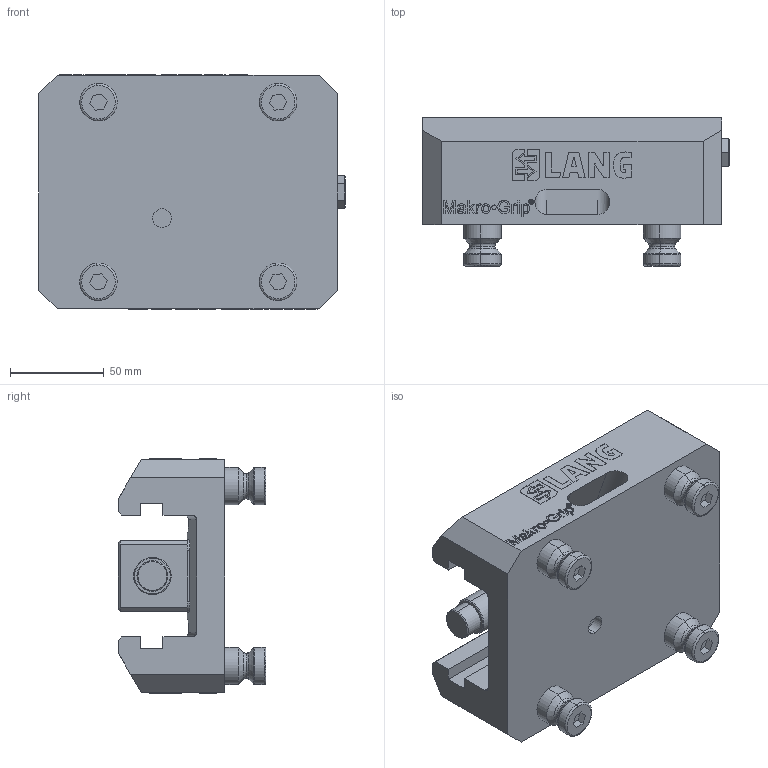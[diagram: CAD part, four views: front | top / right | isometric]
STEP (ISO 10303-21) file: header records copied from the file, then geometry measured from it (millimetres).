
FILE_DESCRIPTION (( 'STEP AP214' ), '1' );
FILE_NAME ('40155-77.STEP', '2024-12-11T08:31:41', ( '' ), ( '' ), 'SwSTEP 2.0', 'SolidWorks 2021', '' );
FILE_SCHEMA (( 'AUTOMOTIVE_DESIGN' ));
Length unit declared in the file: millimetre
Products named in the file (1): 40155-77
Bounding box: 164 x 79 x 125.24 mm (x, y, z)
Volume: 708139.2 mm3; surface area: 117779.1 mm2
Topology: 48 solids, 48 shells, 855 faces, 2128 edges, 1382 vertices
Faces by surface type: plane 529, bspline 192, cylinder 64, cone 38, torus 32
Entity records: 42886 total; most frequent: CARTESIAN_POINT 13862, ORIENTED_EDGE 4240, DIRECTION 3234, EDGE_CURVE 2120, VECTOR 1518, LINE 1518, VERTEX_POINT 1382, UNCERTAINTY_MEASURE_WITH_UNIT 905
